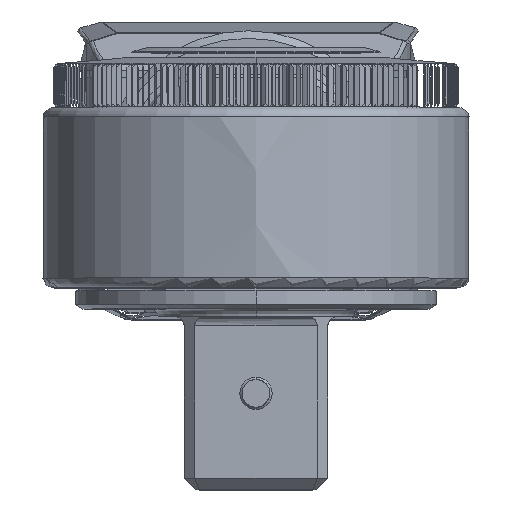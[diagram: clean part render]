
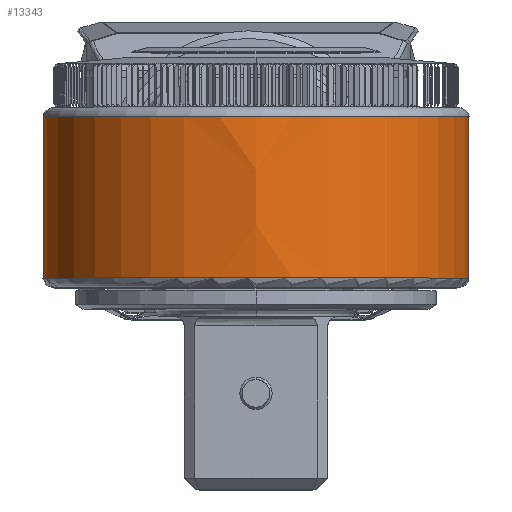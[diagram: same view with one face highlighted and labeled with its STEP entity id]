
A CAD part, top view. The second image highlights one B-rep face of the part: STEP entity #13343.
In plain terms, the highlighted free-form (B-spline) face has degree [3, 3] with [7, 4] control points.
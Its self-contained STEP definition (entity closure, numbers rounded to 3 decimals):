
#13276=CARTESIAN_POINT('',(1.05,25.451,829.));
#13277=DIRECTION('',(0.,1.,0.));
#13278=DIRECTION('',(-0.885,0.,-0.465));
#13279=AXIS2_PLACEMENT_3D('',#13276,#13277,#13278);
#13281=CARTESIAN_POINT('',(-44.102,14.75,
852.713));
#13282=DIRECTION('',(-0.465,0.,-0.885));
#13283=DIRECTION('',(0.877,0.134,-0.461));
#13284=AXIS2_PLACEMENT_3D('',#13281,#13282,#13283);
#13286=CARTESIAN_POINT('',(1.05,4.049,829.));
#13287=DIRECTION('',(0.,-1.,0.));
#13288=DIRECTION('',(0.885,0.,-0.465));
#13289=AXIS2_PLACEMENT_3D('',#13286,#13287,#13288);
#13291=CARTESIAN_POINT('',(46.202,14.75,852.713));
#13292=DIRECTION('',(0.465,0.,-0.885));
#13293=DIRECTION('',(-0.877,-0.134,-0.461));
#13294=AXIS2_PLACEMENT_3D('',#13291,#13292,#13293);
#13296=CARTESIAN_POINT('',(-23.988,25.451,
815.85));
#13297=CARTESIAN_POINT('',(26.088,25.451,815.85));
#13298=VERTEX_POINT('',#13296);
#13299=VERTEX_POINT('',#13297);
#13300=CARTESIAN_POINT('',(26.088,4.049,815.85));
#13301=VERTEX_POINT('',#13300);
#13302=CARTESIAN_POINT('',(-23.988,4.049,
815.85));
#13303=VERTEX_POINT('',#13302);
#13304=CARTESIAN_POINT('',(24.875,25.876,813.871));
#13305=CARTESIAN_POINT('',(25.751,18.483,813.314));
#13306=CARTESIAN_POINT('',(25.751,11.017,813.314));
#13307=CARTESIAN_POINT('',(24.875,3.624,813.871));
#13308=CARTESIAN_POINT('',(38.382,25.876,835.141));
#13309=CARTESIAN_POINT('',(39.755,18.483,835.367));
#13310=CARTESIAN_POINT('',(39.755,11.017,835.367));
#13311=CARTESIAN_POINT('',(38.382,3.624,835.141));
#13312=CARTESIAN_POINT('',(26.246,25.876,857.223));
#13313=CARTESIAN_POINT('',(27.173,18.483,858.261));
#13314=CARTESIAN_POINT('',(27.173,11.017,858.261));
#13315=CARTESIAN_POINT('',(26.246,3.624,857.223));
#13316=CARTESIAN_POINT('',(1.05,25.876,857.223));
#13317=CARTESIAN_POINT('',(1.05,18.483,858.261));
#13318=CARTESIAN_POINT('',(1.05,11.017,858.261));
#13319=CARTESIAN_POINT('',(1.05,3.624,857.223));
#13320=CARTESIAN_POINT('',(-24.146,25.876,
857.223));
#13321=CARTESIAN_POINT('',(-25.073,18.483,
858.261));
#13322=CARTESIAN_POINT('',(-25.073,11.017,
858.261));
#13323=CARTESIAN_POINT('',(-24.146,3.624,
857.223));
#13324=CARTESIAN_POINT('',(-36.282,25.876,
835.141));
#13325=CARTESIAN_POINT('',(-37.655,18.483,
835.367));
#13326=CARTESIAN_POINT('',(-37.655,11.017,
835.367));
#13327=CARTESIAN_POINT('',(-36.282,3.624,
835.141));
#13328=CARTESIAN_POINT('',(-22.775,25.876,
813.871));
#13329=CARTESIAN_POINT('',(-23.651,18.483,
813.314));
#13330=CARTESIAN_POINT('',(-23.651,11.017,
813.314));
#13331=CARTESIAN_POINT('',(-22.775,3.624,
813.871));
#13332=(BOUNDED_SURFACE()B_SPLINE_SURFACE(3,3,((#13304,#13305,#13306,#13307),(
#13308,#13309,#13310,#13311),(#13312,#13313,#13314,#13315),(#13316,#13317,
#13318,#13319),(#13320,#13321,#13322,#13323),(#13324,#13325,#13326,#13327),(
#13328,#13329,#13330,#13331)),.UNSPECIFIED.,.F.,.F.,.F.)B_SPLINE_SURFACE_WITH_KNOTS((4,3,4),(4,4),(0.,1.,2.),(0.,1.),.UNSPECIFIED.)GEOMETRIC_REPRESENTATION_ITEM()RATIONAL_B_SPLINE_SURFACE(((1.356,1.348,
1.348,1.356),(0.888,0.882,
0.882,0.888),(0.888,0.882,
0.882,0.888),(1.356,1.348,
1.348,1.356),(0.888,0.882,
0.882,0.888),(0.888,0.882,
0.882,0.888),(1.356,1.348,
1.348,1.356)))REPRESENTATION_ITEM('')SURFACE());
#13334=ORIENTED_EDGE('',*,*,#13333,.T.);
#13336=ORIENTED_EDGE('',*,*,#13335,.T.);
#13338=ORIENTED_EDGE('',*,*,#13337,.T.);
#13340=ORIENTED_EDGE('',*,*,#13339,.T.);
#13341=EDGE_LOOP('',(#13334,#13336,#13338,#13340));
#13342=FACE_OUTER_BOUND('',#13341,.F.);
#13280=CIRCLE('',#13279,28.281);
#13285=CIRCLE('',#13284,80.);
#13290=CIRCLE('',#13289,28.281);
#13295=CIRCLE('',#13294,80.);
#13333=EDGE_CURVE('',#13298,#13299,#13280,.T.);
#13335=EDGE_CURVE('',#13299,#13301,#13285,.T.);
#13337=EDGE_CURVE('',#13301,#13303,#13290,.T.);
#13339=EDGE_CURVE('',#13303,#13298,#13295,.T.);
#13343=ADVANCED_FACE('',(#13342),#13332,.T.);
